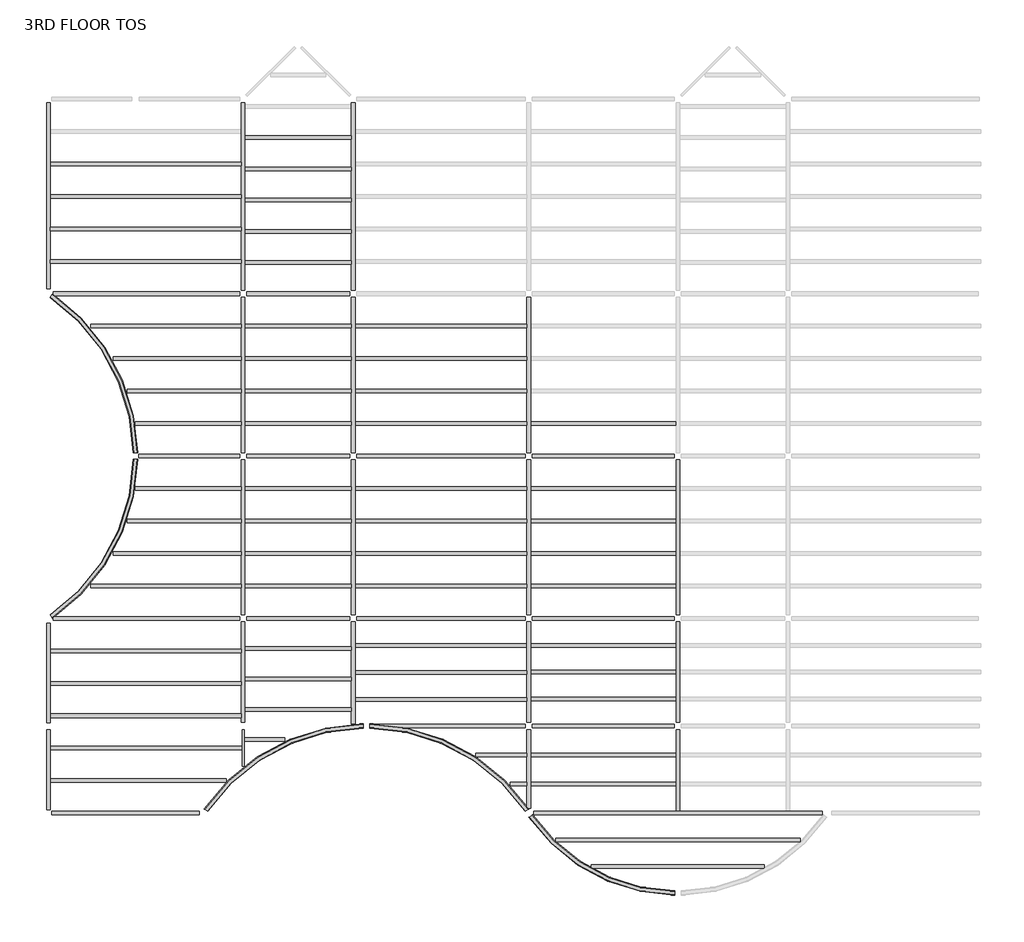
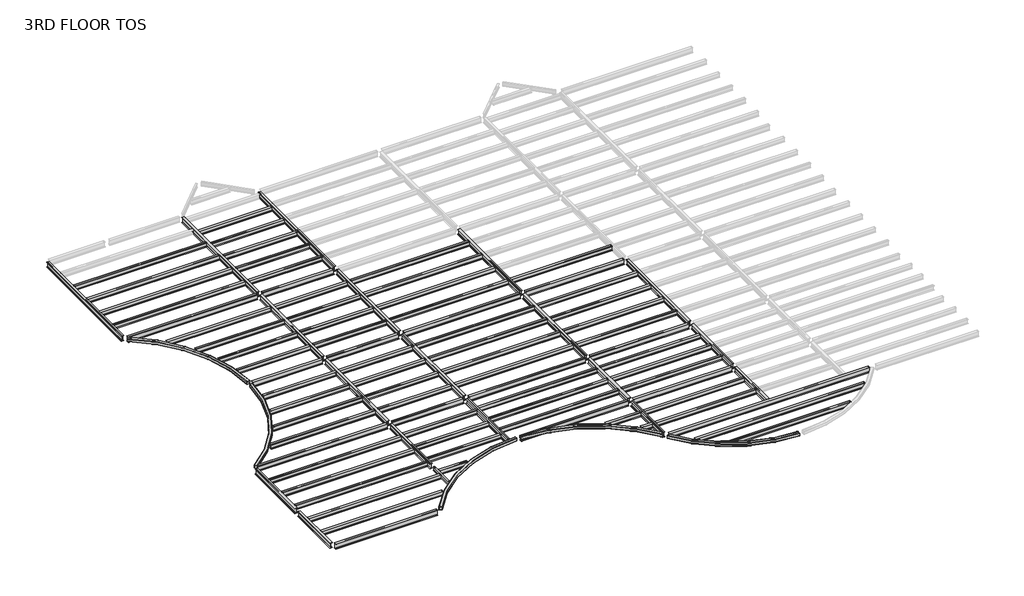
# One storey, part 1 of 2: 97 beams.
"""IFC4 building model written with IfcOpenShell, lengths in millimetres."""

from ifc_helpers import new_model, si_unit, origin, place, context, project, spatial, transform, mapped, element, save
from components import m_hss_square_hss203_2x203_2x9_5_914ff4eb, m_hss_square_hss203_2x203_2x9_5_0e3d8e6e, m_hss_square_hss203_2x203_2x9_5_16dc1c03, m_hss_square_hss203_2x203_2x9_5_18346204, m_hss_square_hss203_2x203_2x9_5_d5f1e8c4, ub_universal_beams_ub254x102x28_4e7f3726, ub_universal_beams_ub305x165x40_c4d0385b, ub_universal_beams_ub305x165x40_d3abc31d, ub_universal_beams_ub305x165x40_0c73730f, ub_universal_beams_ub305x165x40_2a963f0c, ub_universal_beams_ub305x165x40_0a5f2f96, ub_universal_beams_ub305x165x40_d1f7c369, ub_universal_beams_ub305x165x40_83d7b7d5, ub_universal_beams_ub305x165x40_729a4ea5, ub_universal_beams_ub305x165x40_71dfa851, ub_universal_beams_ub305x165x40_619b5398, ub_universal_beams_ub305x165x40_c3492db1, ub_universal_beams_ub305x165x40_8f1c350d, ub_universal_beams_ub305x165x40_3afb5f90, ub_universal_beams_ub305x165x40_767d1929, ub_universal_beams_ub305x165x40_5941ca45, ub_universal_beams_ub356x171x51_ef72dcdd, ub_universal_beams_ub356x171x51_7f80702c, ub_universal_beams_ub356x171x51_dfc36663, ub_universal_beams_ub356x171x51_405a853e, ub_universal_beams_ub356x171x51_e47b7055, ub_universal_beams_ub356x171x51_e97f8d2e, ub_universal_beams_ub356x171x51_11d6b780, ub_universal_beams_ub356x171x51_76b2d20b, ub_universal_beams_ub356x171x51_145ecd4b, ub_universal_beams_ub356x171x51_c7dff8d2, ub_universal_beams_ub356x171x51_834c6e34, ub_universal_beams_ub356x171x51_a38b99de, ub_universal_beams_ub356x171x51_d8f4cdde, ub_universal_beams_ub356x171x51_8094f821, ub_universal_beams_ub356x171x51_c03c70fb, ub_universal_beams_ub356x171x51_e661f2e4, ub_universal_beams_ub356x171x51_3ee91673, ub_universal_beams_ub356x171x51_a871b283, ub_universal_beams_ub356x171x51_741bae58

model = new_model("IFC4")

# Units and contexts
model_context = context("Model", 3, world=origin())
ifc_project = project(units=[si_unit("LENGTHUNIT", "METRE", prefix="MILLI")], contexts=[model_context])

# Site, building, storey
site = spatial("IfcSite", under=ifc_project)
building = spatial("IfcBuilding", under=site)
storey = spatial("IfcBuildingStorey", under=building, Name="3RD FLOOR TOS", Elevation=13563.6)

# Beams
placement = place(None, origin())
m_hss_square_hss203_2x203_2x9_5_shape = m_hss_square_hss203_2x203_2x9_5_914ff4eb(model_context)
element("IfcBeam", 1, ObjectType="M_HSS Square : HSS203.2X203.2X9.5", at=placement, inside=storey, context=model_context, shape_type="MappedRepresentation", body=[
    mapped(m_hss_square_hss203_2x203_2x9_5_shape, transform((22710.575, 155.575, 13462.1), x_axis=(-0.552849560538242, 0.8332810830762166, 0.0), y_axis=(-0.8332810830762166, -0.552849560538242, 0.0), z_axis=(0.0, 0.0, 1.0))),
])
m_hss_square_hss203_2x203_2x9_5_2_shape = m_hss_square_hss203_2x203_2x9_5_0e3d8e6e(model_context)
element("IfcBeam", 2, ObjectType="M_HSS Square : HSS203.2X203.2X9.5", at=placement, inside=storey, context=model_context, shape_type="MappedRepresentation", body=[
    mapped(m_hss_square_hss203_2x203_2x9_5_2_shape, transform((155.575, 9299.575, 13462.1), x_axis=(0.8332810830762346, 0.5528495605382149, 0.0), y_axis=(-0.5528495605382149, 0.8332810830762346, 0.0), z_axis=(0.0, 0.0, 1.0))),
])
m_hss_square_hss203_2x203_2x9_5_3_shape = m_hss_square_hss203_2x203_2x9_5_16dc1c03(model_context)
element("IfcBeam", 3, ObjectType="M_HSS Square : HSS203.2X203.2X9.5", at=placement, inside=storey, context=model_context, shape_type="MappedRepresentation", body=[
    mapped(m_hss_square_hss203_2x203_2x9_5_3_shape, transform((155.575, 24539.575, 13462.1), x_axis=(0.8332810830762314, -0.5528495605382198, 0.0), y_axis=(0.5528495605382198, 0.8332810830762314, 0.0), z_axis=(0.0, 0.0, 1.0))),
])
m_hss_square_hss203_2x203_2x9_5_4_shape = m_hss_square_hss203_2x203_2x9_5_18346204(model_context)
element("IfcBeam", 4, ObjectType="M_HSS Square : HSS203.2X203.2X9.5", at=placement, inside=storey, context=model_context, shape_type="MappedRepresentation", body=[
    mapped(m_hss_square_hss203_2x203_2x9_5_4_shape, transform((29734.7266693, -3601.398624, 13462.1), x_axis=(-0.9999968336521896, -0.0025164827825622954, 0.0), y_axis=(0.0025164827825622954, -0.9999968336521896, 0.0), z_axis=(0.0, 0.0, 1.0))),
])
m_hss_square_hss203_2x203_2x9_5_5_shape = m_hss_square_hss203_2x203_2x9_5_d5f1e8c4(model_context)
element("IfcBeam", 5, ObjectType="M_HSS Square : HSS203.2X203.2X9.5", at=placement, inside=storey, context=model_context, shape_type="MappedRepresentation", body=[
    mapped(m_hss_square_hss203_2x203_2x9_5_5_shape, transform((15096.4572854, 4244.5731081, 13462.1), x_axis=(-0.9999997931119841, 0.0006432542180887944, 0.0), y_axis=(-0.0006432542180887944, -0.9999997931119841, 0.0), z_axis=(0.0, 0.0, 1.0))),
])
ub_universal_beams_ub254x102x28_shape = ub_universal_beams_ub254x102x28_4e7f3726(model_context)
element("IfcBeam", 6, ObjectType="UB-Universal Beams : UB254x102x28", at=placement, inside=storey, context=model_context, shape_type="MappedRepresentation", body=[
    mapped(ub_universal_beams_ub254x102x28_shape, transform((9299.575, 3210.915913, 13433.4), x_axis=(0.0, -1.0, 0.0), y_axis=(1.0, 0.0, 0.0), z_axis=(0.0, 0.0, 1.0))),
])
ub_universal_beams_ub305x165x40_shape = ub_universal_beams_ub305x165x40_c4d0385b(model_context)
element("IfcBeam", 7, ObjectType="UB-Universal Beams : UB305x165x40", at=placement, inside=storey, context=model_context, shape_type="MappedRepresentation", body=[
    mapped(ub_universal_beams_ub305x165x40_shape, transform((4727.575, 30635.575, 13411.9), x_axis=(1.0, 0.0, 0.0), y_axis=(0.0, 1.0, 0.0), z_axis=(0.0, 0.0, 1.0))),
])
element("IfcBeam", 8, ObjectType="UB-Universal Beams : UB305x165x40", at=placement, inside=storey, context=model_context, shape_type="MappedRepresentation", body=[
    mapped(ub_universal_beams_ub305x165x40_shape, transform((4727.575, 29111.575, 13411.9), x_axis=(1.0, 0.0, 0.0), y_axis=(0.0, 1.0, 0.0), z_axis=(0.0, 0.0, 1.0))),
])
element("IfcBeam", 9, ObjectType="UB-Universal Beams : UB305x165x40", at=placement, inside=storey, context=model_context, shape_type="MappedRepresentation", body=[
    mapped(ub_universal_beams_ub305x165x40_shape, transform((4727.575, 27587.575, 13411.9), x_axis=(1.0, 0.0, 0.0), y_axis=(0.0, 1.0, 0.0), z_axis=(0.0, 0.0, 1.0))),
])
element("IfcBeam", 10, ObjectType="UB-Universal Beams : UB305x165x40", at=placement, inside=storey, context=model_context, shape_type="MappedRepresentation", body=[
    mapped(ub_universal_beams_ub305x165x40_shape, transform((4727.575, 26063.575, 13411.9), x_axis=(1.0, 0.0, 0.0), y_axis=(0.0, 1.0, 0.0), z_axis=(0.0, 0.0, 1.0))),
])
element("IfcBeam", 11, ObjectType="UB-Universal Beams : UB305x165x40", at=placement, inside=storey, context=model_context, shape_type="MappedRepresentation", body=[
    mapped(ub_universal_beams_ub305x165x40_shape, transform((4727.575, 4727.575, 13411.9), x_axis=(-1.0, 0.0, 0.0), y_axis=(0.0, -1.0, 0.0), z_axis=(0.0, 0.0, 1.0))),
])
element("IfcBeam", 12, ObjectType="UB-Universal Beams : UB305x165x40", at=placement, inside=storey, context=model_context, shape_type="MappedRepresentation", body=[
    mapped(ub_universal_beams_ub305x165x40_shape, transform((4727.575, 6251.575, 13411.9), x_axis=(-1.0, 0.0, 0.0), y_axis=(0.0, -1.0, 0.0), z_axis=(0.0, 0.0, 1.0))),
])
element("IfcBeam", 13, ObjectType="UB-Universal Beams : UB305x165x40", at=placement, inside=storey, context=model_context, shape_type="MappedRepresentation", body=[
    mapped(ub_universal_beams_ub305x165x40_shape, transform((4727.575, 7775.575, 13411.9), x_axis=(-1.0, 0.0, 0.0), y_axis=(0.0, -1.0, 0.0), z_axis=(0.0, 0.0, 1.0))),
])
ub_universal_beams_ub305x165x40_2_shape = ub_universal_beams_ub305x165x40_d3abc31d(model_context)
element("IfcBeam", 14, ObjectType="UB-Universal Beams : UB305x165x40", at=placement, inside=storey, context=model_context, shape_type="MappedRepresentation", body=[
    mapped(ub_universal_beams_ub305x165x40_2_shape, transform((11885.575, 31870.825, 13411.9), x_axis=(1.0, 0.0, 0.0), y_axis=(0.0, 1.0, 0.0), z_axis=(0.0, 0.0, 1.0))),
])
element("IfcBeam", 15, ObjectType="UB-Universal Beams : UB305x165x40", at=placement, inside=storey, context=model_context, shape_type="MappedRepresentation", body=[
    mapped(ub_universal_beams_ub305x165x40_2_shape, transform((11885.575, 30404.575, 13411.9), x_axis=(1.0, 0.0, 0.0), y_axis=(0.0, 1.0, 0.0), z_axis=(0.0, 0.0, 1.0))),
])
element("IfcBeam", 16, ObjectType="UB-Universal Beams : UB305x165x40", at=placement, inside=storey, context=model_context, shape_type="MappedRepresentation", body=[
    mapped(ub_universal_beams_ub305x165x40_2_shape, transform((11885.575, 28938.325, 13411.9), x_axis=(1.0, 0.0, 0.0), y_axis=(0.0, 1.0, 0.0), z_axis=(0.0, 0.0, 1.0))),
])
element("IfcBeam", 17, ObjectType="UB-Universal Beams : UB305x165x40", at=placement, inside=storey, context=model_context, shape_type="MappedRepresentation", body=[
    mapped(ub_universal_beams_ub305x165x40_2_shape, transform((11885.575, 27472.075, 13411.9), x_axis=(1.0, 0.0, 0.0), y_axis=(0.0, 1.0, 0.0), z_axis=(0.0, 0.0, 1.0))),
])
element("IfcBeam", 18, ObjectType="UB-Universal Beams : UB305x165x40", at=placement, inside=storey, context=model_context, shape_type="MappedRepresentation", body=[
    mapped(ub_universal_beams_ub305x165x40_2_shape, transform((11885.575, 26005.825, 13411.9), x_axis=(1.0, 0.0, 0.0), y_axis=(0.0, 1.0, 0.0), z_axis=(0.0, 0.0, 1.0))),
])
element("IfcBeam", 19, ObjectType="UB-Universal Beams : UB305x165x40", at=placement, inside=storey, context=model_context, shape_type="MappedRepresentation", body=[
    mapped(ub_universal_beams_ub305x165x40_2_shape, transform((11885.575, 23015.575, 13411.9), x_axis=(1.0, 0.0, 0.0), y_axis=(0.0, 1.0, 0.0), z_axis=(0.0, 0.0, 1.0))),
])
element("IfcBeam", 20, ObjectType="UB-Universal Beams : UB305x165x40", at=placement, inside=storey, context=model_context, shape_type="MappedRepresentation", body=[
    mapped(ub_universal_beams_ub305x165x40_2_shape, transform((11885.575, 21491.575, 13411.9), x_axis=(1.0, 0.0, 0.0), y_axis=(0.0, 1.0, 0.0), z_axis=(0.0, 0.0, 1.0))),
])
element("IfcBeam", 21, ObjectType="UB-Universal Beams : UB305x165x40", at=placement, inside=storey, context=model_context, shape_type="MappedRepresentation", body=[
    mapped(ub_universal_beams_ub305x165x40_2_shape, transform((11885.575, 19967.575, 13411.9), x_axis=(1.0, 0.0, 0.0), y_axis=(0.0, 1.0, 0.0), z_axis=(0.0, 0.0, 1.0))),
])
element("IfcBeam", 22, ObjectType="UB-Universal Beams : UB305x165x40", at=placement, inside=storey, context=model_context, shape_type="MappedRepresentation", body=[
    mapped(ub_universal_beams_ub305x165x40_2_shape, transform((11885.575, 18443.575, 13411.9), x_axis=(1.0, 0.0, 0.0), y_axis=(0.0, 1.0, 0.0), z_axis=(0.0, 0.0, 1.0))),
])
element("IfcBeam", 23, ObjectType="UB-Universal Beams : UB305x165x40", at=placement, inside=storey, context=model_context, shape_type="MappedRepresentation", body=[
    mapped(ub_universal_beams_ub305x165x40_2_shape, transform((11885.575, 15395.575, 13411.9), x_axis=(1.0, 0.0, 0.0), y_axis=(0.0, 1.0, 0.0), z_axis=(0.0, 0.0, 1.0))),
])
element("IfcBeam", 24, ObjectType="UB-Universal Beams : UB305x165x40", at=placement, inside=storey, context=model_context, shape_type="MappedRepresentation", body=[
    mapped(ub_universal_beams_ub305x165x40_2_shape, transform((11885.575, 13871.575, 13411.9), x_axis=(1.0, 0.0, 0.0), y_axis=(0.0, 1.0, 0.0), z_axis=(0.0, 0.0, 1.0))),
])
element("IfcBeam", 25, ObjectType="UB-Universal Beams : UB305x165x40", at=placement, inside=storey, context=model_context, shape_type="MappedRepresentation", body=[
    mapped(ub_universal_beams_ub305x165x40_2_shape, transform((11885.575, 12347.575, 13411.9), x_axis=(1.0, 0.0, 0.0), y_axis=(0.0, 1.0, 0.0), z_axis=(0.0, 0.0, 1.0))),
])
element("IfcBeam", 26, ObjectType="UB-Universal Beams : UB305x165x40", at=placement, inside=storey, context=model_context, shape_type="MappedRepresentation", body=[
    mapped(ub_universal_beams_ub305x165x40_2_shape, transform((11885.575, 10823.575, 13411.9), x_axis=(1.0, 0.0, 0.0), y_axis=(0.0, 1.0, 0.0), z_axis=(0.0, 0.0, 1.0))),
])
element("IfcBeam", 27, ObjectType="UB-Universal Beams : UB305x165x40", at=placement, inside=storey, context=model_context, shape_type="MappedRepresentation", body=[
    mapped(ub_universal_beams_ub305x165x40_2_shape, transform((11885.575, 5026.1840956, 13411.9), x_axis=(-1.0, 0.0, 0.0), y_axis=(0.0, -1.0, 0.0), z_axis=(0.0, 0.0, 1.0))),
])
element("IfcBeam", 28, ObjectType="UB-Universal Beams : UB305x165x40", at=placement, inside=storey, context=model_context, shape_type="MappedRepresentation", body=[
    mapped(ub_universal_beams_ub305x165x40_2_shape, transform((11885.575, 6450.6477304, 13411.9), x_axis=(-1.0, 0.0, 0.0), y_axis=(0.0, -1.0, 0.0), z_axis=(0.0, 0.0, 1.0))),
])
element("IfcBeam", 29, ObjectType="UB-Universal Beams : UB305x165x40", at=placement, inside=storey, context=model_context, shape_type="MappedRepresentation", body=[
    mapped(ub_universal_beams_ub305x165x40_2_shape, transform((11885.575, 7875.1113652, 13411.9), x_axis=(-1.0, 0.0, 0.0), y_axis=(0.0, -1.0, 0.0), z_axis=(0.0, 0.0, 1.0))),
])
ub_universal_beams_ub305x165x40_3_shape = ub_universal_beams_ub305x165x40_0c73730f(model_context)
element("IfcBeam", 30, ObjectType="UB-Universal Beams : UB305x165x40", at=placement, inside=storey, context=model_context, shape_type="MappedRepresentation", body=[
    mapped(ub_universal_beams_ub305x165x40_3_shape, transform((18591.075, 5492.5943214, 13411.9), x_axis=(-1.0, 0.0, 0.0), y_axis=(0.0, -1.0, 0.0), z_axis=(0.0, 0.0, 1.0))),
])
element("IfcBeam", 31, ObjectType="UB-Universal Beams : UB305x165x40", at=placement, inside=storey, context=model_context, shape_type="MappedRepresentation", body=[
    mapped(ub_universal_beams_ub305x165x40_3_shape, transform((18591.075, 6761.5878809, 13411.9), x_axis=(-1.0, 0.0, 0.0), y_axis=(0.0, -1.0, 0.0), z_axis=(0.0, 0.0, 1.0))),
])
element("IfcBeam", 32, ObjectType="UB-Universal Beams : UB305x165x40", at=placement, inside=storey, context=model_context, shape_type="MappedRepresentation", body=[
    mapped(ub_universal_beams_ub305x165x40_3_shape, transform((18591.075, 8030.5814405, 13411.9), x_axis=(-1.0, 0.0, 0.0), y_axis=(0.0, -1.0, 0.0), z_axis=(0.0, 0.0, 1.0))),
])
element("IfcBeam", 33, ObjectType="UB-Universal Beams : UB305x165x40", at=placement, inside=storey, context=model_context, shape_type="MappedRepresentation", body=[
    mapped(ub_universal_beams_ub305x165x40_3_shape, transform((18591.075, 15395.575, 13411.9), x_axis=(1.0, 0.0, 0.0), y_axis=(0.0, 1.0, 0.0), z_axis=(0.0, 0.0, 1.0))),
])
element("IfcBeam", 34, ObjectType="UB-Universal Beams : UB305x165x40", at=placement, inside=storey, context=model_context, shape_type="MappedRepresentation", body=[
    mapped(ub_universal_beams_ub305x165x40_3_shape, transform((18591.075, 13871.575, 13411.9), x_axis=(1.0, 0.0, 0.0), y_axis=(0.0, 1.0, 0.0), z_axis=(0.0, 0.0, 1.0))),
])
element("IfcBeam", 35, ObjectType="UB-Universal Beams : UB305x165x40", at=placement, inside=storey, context=model_context, shape_type="MappedRepresentation", body=[
    mapped(ub_universal_beams_ub305x165x40_3_shape, transform((18591.075, 12347.575, 13411.9), x_axis=(1.0, 0.0, 0.0), y_axis=(0.0, 1.0, 0.0), z_axis=(0.0, 0.0, 1.0))),
])
element("IfcBeam", 36, ObjectType="UB-Universal Beams : UB305x165x40", at=placement, inside=storey, context=model_context, shape_type="MappedRepresentation", body=[
    mapped(ub_universal_beams_ub305x165x40_3_shape, transform((18591.075, 10823.575, 13411.9), x_axis=(1.0, 0.0, 0.0), y_axis=(0.0, 1.0, 0.0), z_axis=(0.0, 0.0, 1.0))),
])
element("IfcBeam", 37, ObjectType="UB-Universal Beams : UB305x165x40", at=placement, inside=storey, context=model_context, shape_type="MappedRepresentation", body=[
    mapped(ub_universal_beams_ub305x165x40_3_shape, transform((18591.075, 23015.575, 13411.9), x_axis=(1.0, 0.0, 0.0), y_axis=(0.0, 1.0, 0.0), z_axis=(0.0, 0.0, 1.0))),
])
element("IfcBeam", 38, ObjectType="UB-Universal Beams : UB305x165x40", at=placement, inside=storey, context=model_context, shape_type="MappedRepresentation", body=[
    mapped(ub_universal_beams_ub305x165x40_3_shape, transform((18591.075, 21491.575, 13411.9), x_axis=(1.0, 0.0, 0.0), y_axis=(0.0, 1.0, 0.0), z_axis=(0.0, 0.0, 1.0))),
])
element("IfcBeam", 39, ObjectType="UB-Universal Beams : UB305x165x40", at=placement, inside=storey, context=model_context, shape_type="MappedRepresentation", body=[
    mapped(ub_universal_beams_ub305x165x40_3_shape, transform((18591.075, 19967.575, 13411.9), x_axis=(1.0, 0.0, 0.0), y_axis=(0.0, 1.0, 0.0), z_axis=(0.0, 0.0, 1.0))),
])
element("IfcBeam", 40, ObjectType="UB-Universal Beams : UB305x165x40", at=placement, inside=storey, context=model_context, shape_type="MappedRepresentation", body=[
    mapped(ub_universal_beams_ub305x165x40_3_shape, transform((18591.075, 18443.575, 13411.9), x_axis=(1.0, 0.0, 0.0), y_axis=(0.0, 1.0, 0.0), z_axis=(0.0, 0.0, 1.0))),
])
ub_universal_beams_ub305x165x40_4_shape = ub_universal_beams_ub305x165x40_2a963f0c(model_context)
element("IfcBeam", 41, ObjectType="UB-Universal Beams : UB305x165x40", at=placement, inside=storey, context=model_context, shape_type="MappedRepresentation", body=[
    mapped(ub_universal_beams_ub305x165x40_4_shape, transform((26211.075, 18443.575, 13411.9), x_axis=(1.0, 0.0, 0.0), y_axis=(0.0, 1.0, 0.0), z_axis=(0.0, 0.0, 1.0))),
])
element("IfcBeam", 42, ObjectType="UB-Universal Beams : UB305x165x40", at=placement, inside=storey, context=model_context, shape_type="MappedRepresentation", body=[
    mapped(ub_universal_beams_ub305x165x40_4_shape, transform((26211.075, 15395.575, 13411.9), x_axis=(1.0, 0.0, 0.0), y_axis=(0.0, 1.0, 0.0), z_axis=(0.0, 0.0, 1.0))),
])
element("IfcBeam", 43, ObjectType="UB-Universal Beams : UB305x165x40", at=placement, inside=storey, context=model_context, shape_type="MappedRepresentation", body=[
    mapped(ub_universal_beams_ub305x165x40_4_shape, transform((26211.075, 13871.575, 13411.9), x_axis=(1.0, 0.0, 0.0), y_axis=(0.0, 1.0, 0.0), z_axis=(0.0, 0.0, 1.0))),
])
element("IfcBeam", 44, ObjectType="UB-Universal Beams : UB305x165x40", at=placement, inside=storey, context=model_context, shape_type="MappedRepresentation", body=[
    mapped(ub_universal_beams_ub305x165x40_4_shape, transform((26211.075, 12347.575, 13411.9), x_axis=(1.0, 0.0, 0.0), y_axis=(0.0, 1.0, 0.0), z_axis=(0.0, 0.0, 1.0))),
])
element("IfcBeam", 45, ObjectType="UB-Universal Beams : UB305x165x40", at=placement, inside=storey, context=model_context, shape_type="MappedRepresentation", body=[
    mapped(ub_universal_beams_ub305x165x40_4_shape, transform((26211.075, 10823.575, 13411.9), x_axis=(1.0, 0.0, 0.0), y_axis=(0.0, 1.0, 0.0), z_axis=(0.0, 0.0, 1.0))),
])
element("IfcBeam", 46, ObjectType="UB-Universal Beams : UB305x165x40", at=placement, inside=storey, context=model_context, shape_type="MappedRepresentation", body=[
    mapped(ub_universal_beams_ub305x165x40_4_shape, transform((26211.075, 5508.325, 13411.9), x_axis=(-1.0, 0.0, 0.0), y_axis=(0.0, -1.0, 0.0), z_axis=(0.0, 0.0, 1.0))),
])
element("IfcBeam", 47, ObjectType="UB-Universal Beams : UB305x165x40", at=placement, inside=storey, context=model_context, shape_type="MappedRepresentation", body=[
    mapped(ub_universal_beams_ub305x165x40_4_shape, transform((26211.075, 6772.075, 13411.9), x_axis=(-1.0, 0.0, 0.0), y_axis=(0.0, -1.0, 0.0), z_axis=(0.0, 0.0, 1.0))),
])
element("IfcBeam", 48, ObjectType="UB-Universal Beams : UB305x165x40", at=placement, inside=storey, context=model_context, shape_type="MappedRepresentation", body=[
    mapped(ub_universal_beams_ub305x165x40_4_shape, transform((26211.075, 8035.825, 13411.9), x_axis=(-1.0, 0.0, 0.0), y_axis=(0.0, -1.0, 0.0), z_axis=(0.0, 0.0, 1.0))),
])
element("IfcBeam", 49, ObjectType="UB-Universal Beams : UB305x165x40", at=placement, inside=storey, context=model_context, shape_type="MappedRepresentation", body=[
    mapped(ub_universal_beams_ub305x165x40_4_shape, transform((26211.075, 1518.575, 13411.9), x_axis=(-1.0, 0.0, 0.0), y_axis=(0.0, -1.0, 0.0), z_axis=(0.0, 0.0, 1.0))),
])
element("IfcBeam", 50, ObjectType="UB-Universal Beams : UB305x165x40", at=placement, inside=storey, context=model_context, shape_type="MappedRepresentation", body=[
    mapped(ub_universal_beams_ub305x165x40_4_shape, transform((26211.075, 2881.575, 13411.9), x_axis=(-1.0, 0.0, 0.0), y_axis=(0.0, -1.0, 0.0), z_axis=(0.0, 0.0, 1.0))),
])
ub_universal_beams_ub305x165x40_5_shape = ub_universal_beams_ub305x165x40_0a5f2f96(model_context)
element("IfcBeam", 51, ObjectType="UB-Universal Beams : UB305x165x40", at=placement, inside=storey, context=model_context, shape_type="MappedRepresentation", body=[
    mapped(ub_universal_beams_ub305x165x40_5_shape, transform((29713.575, -2349.0918253, 13411.9), x_axis=(-1.0, 0.0, 0.0), y_axis=(0.0, -1.0, 0.0), z_axis=(0.0, 0.0, 1.0))),
])
ub_universal_beams_ub305x165x40_6_shape = ub_universal_beams_ub305x165x40_d1f7c369(model_context)
element("IfcBeam", 52, ObjectType="UB-Universal Beams : UB305x165x40", at=placement, inside=storey, context=model_context, shape_type="MappedRepresentation", body=[
    mapped(ub_universal_beams_ub305x165x40_6_shape, transform((29713.575, -1096.7584126, 13411.9), x_axis=(-1.0, 0.0, 0.0), y_axis=(0.0, -1.0, 0.0), z_axis=(0.0, 0.0, 1.0))),
])
ub_universal_beams_ub305x165x40_7_shape = ub_universal_beams_ub305x165x40_83d7b7d5(model_context)
element("IfcBeam", 53, ObjectType="UB-Universal Beams : UB305x165x40", at=placement, inside=storey, context=model_context, shape_type="MappedRepresentation", body=[
    mapped(ub_universal_beams_ub305x165x40_7_shape, transform((22157.3041106, 1518.575, 13411.9), x_axis=(-1.0, 0.0, 0.0), y_axis=(0.0, -1.0, 0.0), z_axis=(0.0, 0.0, 1.0))),
])
ub_universal_beams_ub305x165x40_8_shape = ub_universal_beams_ub305x165x40_729a4ea5(model_context)
element("IfcBeam", 54, ObjectType="UB-Universal Beams : UB305x165x40", at=placement, inside=storey, context=model_context, shape_type="MappedRepresentation", body=[
    mapped(ub_universal_beams_ub305x165x40_8_shape, transform((21302.1545844, 2881.575, 13411.9), x_axis=(-1.0, 0.0, 0.0), y_axis=(0.0, -1.0, 0.0), z_axis=(0.0, 0.0, 1.0))),
])
ub_universal_beams_ub305x165x40_9_shape = ub_universal_beams_ub305x165x40_71dfa851(model_context)
element("IfcBeam", 55, ObjectType="UB-Universal Beams : UB305x165x40", at=placement, inside=storey, context=model_context, shape_type="MappedRepresentation", body=[
    mapped(ub_universal_beams_ub305x165x40_9_shape, transform((10511.0323166, 3601.7204608, 13411.9), x_axis=(-1.0, 0.0, 0.0), y_axis=(0.0, -1.0, 0.0), z_axis=(0.0, 0.0, 1.0))),
])
ub_universal_beams_ub305x165x40_10_shape = ub_universal_beams_ub305x165x40_619b5398(model_context)
element("IfcBeam", 56, ObjectType="UB-Universal Beams : UB305x165x40", at=placement, inside=storey, context=model_context, shape_type="MappedRepresentation", body=[
    mapped(ub_universal_beams_ub305x165x40_10_shape, transform((4447.6838282, 1679.575, 13411.9), x_axis=(-1.0, 0.0, 0.0), y_axis=(0.0, -1.0, 0.0), z_axis=(0.0, 0.0, 1.0))),
])
ub_universal_beams_ub305x165x40_11_shape = ub_universal_beams_ub305x165x40_c3492db1(model_context)
element("IfcBeam", 57, ObjectType="UB-Universal Beams : UB305x165x40", at=placement, inside=storey, context=model_context, shape_type="MappedRepresentation", body=[
    mapped(ub_universal_beams_ub305x165x40_11_shape, transform((4727.575, 3203.575, 13411.9), x_axis=(-1.0, 0.0, 0.0), y_axis=(0.0, -1.0, 0.0), z_axis=(0.0, 0.0, 1.0))),
])
ub_universal_beams_ub305x165x40_12_shape = ub_universal_beams_ub305x165x40_8f1c350d(model_context)
element("IfcBeam", 58, ObjectType="UB-Universal Beams : UB305x165x40", at=placement, inside=storey, context=model_context, shape_type="MappedRepresentation", body=[
    mapped(ub_universal_beams_ub305x165x40_12_shape, transform((6708.1318611, 15395.575, 13411.9), x_axis=(1.0, 0.0, 0.0), y_axis=(0.0, 1.0, 0.0), z_axis=(0.0, 0.0, 1.0))),
])
element("IfcBeam", 59, ObjectType="UB-Universal Beams : UB305x165x40", at=placement, inside=storey, context=model_context, shape_type="MappedRepresentation", body=[
    mapped(ub_universal_beams_ub305x165x40_12_shape, transform((6708.1318611, 18443.575, 13411.9), x_axis=(1.0, 0.0, 0.0), y_axis=(0.0, 1.0, 0.0), z_axis=(0.0, 0.0, 1.0))),
])
ub_universal_beams_ub305x165x40_13_shape = ub_universal_beams_ub305x165x40_3afb5f90(model_context)
element("IfcBeam", 60, ObjectType="UB-Universal Beams : UB305x165x40", at=placement, inside=storey, context=model_context, shape_type="MappedRepresentation", body=[
    mapped(ub_universal_beams_ub305x165x40_13_shape, transform((6510.6153272, 13871.575, 13411.9), x_axis=(1.0, 0.0, 0.0), y_axis=(0.0, 1.0, 0.0), z_axis=(0.0, 0.0, 1.0))),
])
element("IfcBeam", 61, ObjectType="UB-Universal Beams : UB305x165x40", at=placement, inside=storey, context=model_context, shape_type="MappedRepresentation", body=[
    mapped(ub_universal_beams_ub305x165x40_13_shape, transform((6510.6153272, 19967.575, 13411.9), x_axis=(1.0, 0.0, 0.0), y_axis=(0.0, 1.0, 0.0), z_axis=(0.0, 0.0, 1.0))),
])
ub_universal_beams_ub305x165x40_14_shape = ub_universal_beams_ub305x165x40_767d1929(model_context)
element("IfcBeam", 62, ObjectType="UB-Universal Beams : UB305x165x40", at=placement, inside=storey, context=model_context, shape_type="MappedRepresentation", body=[
    mapped(ub_universal_beams_ub305x165x40_14_shape, transform((6159.5874928, 12347.575, 13411.9), x_axis=(1.0, 0.0, 0.0), y_axis=(0.0, 1.0, 0.0), z_axis=(0.0, 0.0, 1.0))),
])
element("IfcBeam", 63, ObjectType="UB-Universal Beams : UB305x165x40", at=placement, inside=storey, context=model_context, shape_type="MappedRepresentation", body=[
    mapped(ub_universal_beams_ub305x165x40_14_shape, transform((6159.5874928, 21491.575, 13411.9), x_axis=(1.0, 0.0, 0.0), y_axis=(0.0, 1.0, 0.0), z_axis=(0.0, 0.0, 1.0))),
])
ub_universal_beams_ub305x165x40_15_shape = ub_universal_beams_ub305x165x40_5941ca45(model_context)
element("IfcBeam", 64, ObjectType="UB-Universal Beams : UB305x165x40", at=placement, inside=storey, context=model_context, shape_type="MappedRepresentation", body=[
    mapped(ub_universal_beams_ub305x165x40_15_shape, transform((5607.9405309, 10823.575, 13411.9), x_axis=(1.0, 0.0, 0.0), y_axis=(0.0, 1.0, 0.0), z_axis=(0.0, 0.0, 1.0))),
])
element("IfcBeam", 65, ObjectType="UB-Universal Beams : UB305x165x40", at=placement, inside=storey, context=model_context, shape_type="MappedRepresentation", body=[
    mapped(ub_universal_beams_ub305x165x40_15_shape, transform((5607.9405309, 23015.575, 13411.9), x_axis=(1.0, 0.0, 0.0), y_axis=(0.0, 1.0, 0.0), z_axis=(0.0, 0.0, 1.0))),
])
ub_universal_beams_ub356x171x51_shape = ub_universal_beams_ub356x171x51_ef72dcdd(model_context)
element("IfcBeam", 66, ObjectType="UB-Universal Beams : UB356x171x51", at=placement, inside=storey, context=model_context, shape_type="MappedRepresentation", body=[
    mapped(ub_universal_beams_ub356x171x51_shape, transform((9299.575, 6772.075, 13386.1), x_axis=(0.0, -1.0, 0.0), y_axis=(1.0, 0.0, 0.0), z_axis=(0.0, 0.0, 1.0))),
])
element("IfcBeam", 67, ObjectType="UB-Universal Beams : UB356x171x51", at=placement, inside=storey, context=model_context, shape_type="MappedRepresentation", body=[
    mapped(ub_universal_beams_ub356x171x51_shape, transform((29711.575, 6772.075, 13386.1), x_axis=(0.0, 1.0, 0.0), y_axis=(-1.0, 0.0, 0.0), z_axis=(0.0, 0.0, 1.0))),
])
element("IfcBeam", 68, ObjectType="UB-Universal Beams : UB356x171x51", at=placement, inside=storey, context=model_context, shape_type="MappedRepresentation", body=[
    mapped(ub_universal_beams_ub356x171x51_shape, transform((22710.575, 6772.075, 13386.1), x_axis=(0.0, -1.0, 0.0), y_axis=(1.0, 0.0, 0.0), z_axis=(0.0, 0.0, 1.0))),
])
ub_universal_beams_ub356x171x51_2_shape = ub_universal_beams_ub356x171x51_7f80702c(model_context)
element("IfcBeam", 69, ObjectType="UB-Universal Beams : UB356x171x51", at=placement, inside=storey, context=model_context, shape_type="MappedRepresentation", body=[
    mapped(ub_universal_beams_ub356x171x51_2_shape, transform((3813.075, 155.575, 13386.1), x_axis=(-1.0, 0.0, 0.0), y_axis=(0.0, -1.0, 0.0), z_axis=(0.0, 0.0, 1.0))),
])
ub_universal_beams_ub356x171x51_3_shape = ub_universal_beams_ub356x171x51_dfc36663(model_context)
element("IfcBeam", 70, ObjectType="UB-Universal Beams : UB356x171x51", at=placement, inside=storey, context=model_context, shape_type="MappedRepresentation", body=[
    mapped(ub_universal_beams_ub356x171x51_3_shape, transform((155.575, 2200.075, 13386.1), x_axis=(0.0, 1.0, 0.0), y_axis=(-1.0, 0.0, 0.0), z_axis=(0.0, 0.0, 1.0))),
])
ub_universal_beams_ub356x171x51_4_shape = ub_universal_beams_ub356x171x51_405a853e(model_context)
element("IfcBeam", 71, ObjectType="UB-Universal Beams : UB356x171x51", at=placement, inside=storey, context=model_context, shape_type="MappedRepresentation", body=[
    mapped(ub_universal_beams_ub356x171x51_4_shape, transform((155.575, 6772.075, 13386.1), x_axis=(0.0, 1.0, 0.0), y_axis=(-1.0, 0.0, 0.0), z_axis=(0.0, 0.0, 1.0))),
])
ub_universal_beams_ub356x171x51_5_shape = ub_universal_beams_ub356x171x51_e47b7055(model_context)
element("IfcBeam", 72, ObjectType="UB-Universal Beams : UB356x171x51", at=placement, inside=storey, context=model_context, shape_type="MappedRepresentation", body=[
    mapped(ub_universal_beams_ub356x171x51_5_shape, transform((155.575, 29111.575, 13386.1), x_axis=(0.0, 1.0, 0.0), y_axis=(-1.0, 0.0, 0.0), z_axis=(0.0, 0.0, 1.0))),
])
ub_universal_beams_ub356x171x51_6_shape = ub_universal_beams_ub356x171x51_e97f8d2e(model_context)
element("IfcBeam", 73, ObjectType="UB-Universal Beams : UB356x171x51", at=placement, inside=storey, context=model_context, shape_type="MappedRepresentation", body=[
    mapped(ub_universal_beams_ub356x171x51_6_shape, transform((4727.575, 24539.575, 13386.1), x_axis=(1.0, 0.0, 0.0), y_axis=(0.0, 1.0, 0.0), z_axis=(0.0, 0.0, 1.0))),
])
ub_universal_beams_ub356x171x51_7_shape = ub_universal_beams_ub356x171x51_11d6b780(model_context)
element("IfcBeam", 74, ObjectType="UB-Universal Beams : UB356x171x51", at=placement, inside=storey, context=model_context, shape_type="MappedRepresentation", body=[
    mapped(ub_universal_beams_ub356x171x51_7_shape, transform((11885.575, 24539.575, 13386.1), x_axis=(1.0, 0.0, 0.0), y_axis=(0.0, 1.0, 0.0), z_axis=(0.0, 0.0, 1.0))),
])
element("IfcBeam", 75, ObjectType="UB-Universal Beams : UB356x171x51", at=placement, inside=storey, context=model_context, shape_type="MappedRepresentation", body=[
    mapped(ub_universal_beams_ub356x171x51_7_shape, transform((11885.575, 9299.575, 13386.1), x_axis=(-1.0, 0.0, 0.0), y_axis=(0.0, -1.0, 0.0), z_axis=(0.0, 0.0, 1.0))),
])
element("IfcBeam", 76, ObjectType="UB-Universal Beams : UB356x171x51", at=placement, inside=storey, context=model_context, shape_type="MappedRepresentation", body=[
    mapped(ub_universal_beams_ub356x171x51_7_shape, transform((11885.575, 16919.575, 13386.1), x_axis=(1.0, 0.0, 0.0), y_axis=(0.0, 1.0, 0.0), z_axis=(0.0, 0.0, 1.0))),
])
ub_universal_beams_ub356x171x51_8_shape = ub_universal_beams_ub356x171x51_76b2d20b(model_context)
element("IfcBeam", 77, ObjectType="UB-Universal Beams : UB356x171x51", at=placement, inside=storey, context=model_context, shape_type="MappedRepresentation", body=[
    mapped(ub_universal_beams_ub356x171x51_8_shape, transform((18591.075, 9299.575, 13386.1), x_axis=(-1.0, 0.0, 0.0), y_axis=(0.0, -1.0, 0.0), z_axis=(0.0, 0.0, 1.0))),
])
element("IfcBeam", 78, ObjectType="UB-Universal Beams : UB356x171x51", at=placement, inside=storey, context=model_context, shape_type="MappedRepresentation", body=[
    mapped(ub_universal_beams_ub356x171x51_8_shape, transform((18591.075, 16919.575, 13386.1), x_axis=(1.0, 0.0, 0.0), y_axis=(0.0, 1.0, 0.0), z_axis=(0.0, 0.0, 1.0))),
])
ub_universal_beams_ub356x171x51_9_shape = ub_universal_beams_ub356x171x51_145ecd4b(model_context)
element("IfcBeam", 79, ObjectType="UB-Universal Beams : UB356x171x51", at=placement, inside=storey, context=model_context, shape_type="MappedRepresentation", body=[
    mapped(ub_universal_beams_ub356x171x51_9_shape, transform((26211.075, 9299.575, 13386.1), x_axis=(-1.0, 0.0, 0.0), y_axis=(0.0, -1.0, 0.0), z_axis=(0.0, 0.0, 1.0))),
])
element("IfcBeam", 80, ObjectType="UB-Universal Beams : UB356x171x51", at=placement, inside=storey, context=model_context, shape_type="MappedRepresentation", body=[
    mapped(ub_universal_beams_ub356x171x51_9_shape, transform((26211.075, 16919.575, 13386.1), x_axis=(1.0, 0.0, 0.0), y_axis=(0.0, 1.0, 0.0), z_axis=(0.0, 0.0, 1.0))),
])
element("IfcBeam", 81, ObjectType="UB-Universal Beams : UB356x171x51", at=placement, inside=storey, context=model_context, shape_type="MappedRepresentation", body=[
    mapped(ub_universal_beams_ub356x171x51_9_shape, transform((26211.075, 4244.575, 13386.1), x_axis=(-1.0, 0.0, 0.0), y_axis=(0.0, -1.0, 0.0), z_axis=(0.0, 0.0, 1.0))),
])
ub_universal_beams_ub356x171x51_10_shape = ub_universal_beams_ub356x171x51_c7dff8d2(model_context)
element("IfcBeam", 82, ObjectType="UB-Universal Beams : UB356x171x51", at=placement, inside=storey, context=model_context, shape_type="MappedRepresentation", body=[
    mapped(ub_universal_beams_ub356x171x51_10_shape, transform((4727.575, 9299.575, 13386.1), x_axis=(-1.0, 0.0, 0.0), y_axis=(0.0, -1.0, 0.0), z_axis=(0.0, 0.0, 1.0))),
])
ub_universal_beams_ub356x171x51_11_shape = ub_universal_beams_ub356x171x51_834c6e34(model_context)
element("IfcBeam", 83, ObjectType="UB-Universal Beams : UB356x171x51", at=placement, inside=storey, context=model_context, shape_type="MappedRepresentation", body=[
    mapped(ub_universal_beams_ub356x171x51_11_shape, transform((14471.575, 6761.5878809, 13386.1), x_axis=(0.0, -1.0, 0.0), y_axis=(1.0, 0.0, 0.0), z_axis=(0.0, 0.0, 1.0))),
])
ub_universal_beams_ub356x171x51_12_shape = ub_universal_beams_ub356x171x51_a38b99de(model_context)
element("IfcBeam", 84, ObjectType="UB-Universal Beams : UB356x171x51", at=placement, inside=storey, context=model_context, shape_type="MappedRepresentation", body=[
    mapped(ub_universal_beams_ub356x171x51_12_shape, transform((9299.575, 13109.575, 13386.1), x_axis=(0.0, 1.0, 0.0), y_axis=(-1.0, 0.0, 0.0), z_axis=(0.0, 0.0, 1.0))),
])
element("IfcBeam", 85, ObjectType="UB-Universal Beams : UB356x171x51", at=placement, inside=storey, context=model_context, shape_type="MappedRepresentation", body=[
    mapped(ub_universal_beams_ub356x171x51_12_shape, transform((9299.575, 20729.575, 13386.1), x_axis=(0.0, 1.0, 0.0), y_axis=(-1.0, 0.0, 0.0), z_axis=(0.0, 0.0, 1.0))),
])
element("IfcBeam", 86, ObjectType="UB-Universal Beams : UB356x171x51", at=placement, inside=storey, context=model_context, shape_type="MappedRepresentation", body=[
    mapped(ub_universal_beams_ub356x171x51_12_shape, transform((14471.575, 20729.575, 13386.1), x_axis=(0.0, -1.0, 0.0), y_axis=(1.0, 0.0, 0.0), z_axis=(0.0, 0.0, 1.0))),
])
element("IfcBeam", 87, ObjectType="UB-Universal Beams : UB356x171x51", at=placement, inside=storey, context=model_context, shape_type="MappedRepresentation", body=[
    mapped(ub_universal_beams_ub356x171x51_12_shape, transform((14471.575, 13109.575, 13386.1), x_axis=(0.0, -1.0, 0.0), y_axis=(1.0, 0.0, 0.0), z_axis=(0.0, 0.0, 1.0))),
])
element("IfcBeam", 88, ObjectType="UB-Universal Beams : UB356x171x51", at=placement, inside=storey, context=model_context, shape_type="MappedRepresentation", body=[
    mapped(ub_universal_beams_ub356x171x51_12_shape, transform((22710.575, 20729.575, 13386.1), x_axis=(0.0, -1.0, 0.0), y_axis=(1.0, 0.0, 0.0), z_axis=(0.0, 0.0, 1.0))),
])
element("IfcBeam", 89, ObjectType="UB-Universal Beams : UB356x171x51", at=placement, inside=storey, context=model_context, shape_type="MappedRepresentation", body=[
    mapped(ub_universal_beams_ub356x171x51_12_shape, transform((22710.575, 13109.575, 13386.1), x_axis=(0.0, -1.0, 0.0), y_axis=(1.0, 0.0, 0.0), z_axis=(0.0, 0.0, 1.0))),
])
element("IfcBeam", 90, ObjectType="UB-Universal Beams : UB356x171x51", at=placement, inside=storey, context=model_context, shape_type="MappedRepresentation", body=[
    mapped(ub_universal_beams_ub356x171x51_12_shape, transform((29711.575, 13109.575, 13386.1), x_axis=(0.0, 1.0, 0.0), y_axis=(-1.0, 0.0, 0.0), z_axis=(0.0, 0.0, 1.0))),
])
ub_universal_beams_ub356x171x51_13_shape = ub_universal_beams_ub356x171x51_d8f4cdde(model_context)
element("IfcBeam", 91, ObjectType="UB-Universal Beams : UB356x171x51", at=placement, inside=storey, context=model_context, shape_type="MappedRepresentation", body=[
    mapped(ub_universal_beams_ub356x171x51_13_shape, transform((9299.575, 29111.575, 13386.1), x_axis=(0.0, 1.0, 0.0), y_axis=(-1.0, 0.0, 0.0), z_axis=(0.0, 0.0, 1.0))),
])
ub_universal_beams_ub356x171x51_14_shape = ub_universal_beams_ub356x171x51_8094f821(model_context)
element("IfcBeam", 92, ObjectType="UB-Universal Beams : UB356x171x51", at=placement, inside=storey, context=model_context, shape_type="MappedRepresentation", body=[
    mapped(ub_universal_beams_ub356x171x51_14_shape, transform((6772.075, 16919.575, 13386.1), x_axis=(1.0, 0.0, 0.0), y_axis=(0.0, 1.0, 0.0), z_axis=(0.0, 0.0, 1.0))),
])
ub_universal_beams_ub356x171x51_15_shape = ub_universal_beams_ub356x171x51_c03c70fb(model_context)
element("IfcBeam", 93, ObjectType="UB-Universal Beams : UB356x171x51", at=placement, inside=storey, context=model_context, shape_type="MappedRepresentation", body=[
    mapped(ub_universal_beams_ub356x171x51_15_shape, transform((14471.575, 29111.575, 13386.1), x_axis=(0.0, -1.0, 0.0), y_axis=(1.0, 0.0, 0.0), z_axis=(0.0, 0.0, 1.0))),
])
ub_universal_beams_ub356x171x51_16_shape = ub_universal_beams_ub356x171x51_e661f2e4(model_context)
element("IfcBeam", 94, ObjectType="UB-Universal Beams : UB356x171x51", at=placement, inside=storey, context=model_context, shape_type="MappedRepresentation", body=[
    mapped(ub_universal_beams_ub356x171x51_16_shape, transform((29713.575, 155.575, 13386.1), x_axis=(-1.0, 0.0, 0.0), y_axis=(0.0, -1.0, 0.0), z_axis=(0.0, 0.0, 1.0))),
])
ub_universal_beams_ub356x171x51_17_shape = ub_universal_beams_ub356x171x51_3ee91673(model_context)
element("IfcBeam", 95, ObjectType="UB-Universal Beams : UB356x171x51", at=placement, inside=storey, context=model_context, shape_type="MappedRepresentation", body=[
    mapped(ub_universal_beams_ub356x171x51_17_shape, transform((18900.575, 4244.575, 13386.1), x_axis=(-1.0, 0.0, 0.0), y_axis=(0.0, -1.0, 0.0), z_axis=(0.0, 0.0, 1.0))),
])
ub_universal_beams_ub356x171x51_18_shape = ub_universal_beams_ub356x171x51_a871b283(model_context)
element("IfcBeam", 96, ObjectType="UB-Universal Beams : UB356x171x51", at=placement, inside=storey, context=model_context, shape_type="MappedRepresentation", body=[
    mapped(ub_universal_beams_ub356x171x51_18_shape, transform((22710.575, 2200.075, 13386.1), x_axis=(0.0, -1.0, 0.0), y_axis=(1.0, 0.0, 0.0), z_axis=(0.0, 0.0, 1.0))),
])
ub_universal_beams_ub356x171x51_19_shape = ub_universal_beams_ub356x171x51_741bae58(model_context)
element("IfcBeam", 97, ObjectType="UB-Universal Beams : UB356x171x51", at=placement, inside=storey, context=model_context, shape_type="MappedRepresentation", body=[
    mapped(ub_universal_beams_ub356x171x51_19_shape, transform((29711.575, 2200.075, 13386.1), x_axis=(0.0, -1.0, 0.0), y_axis=(1.0, 0.0, 0.0), z_axis=(0.0, 0.0, 1.0))),
])

save(model, "model.ifc")
